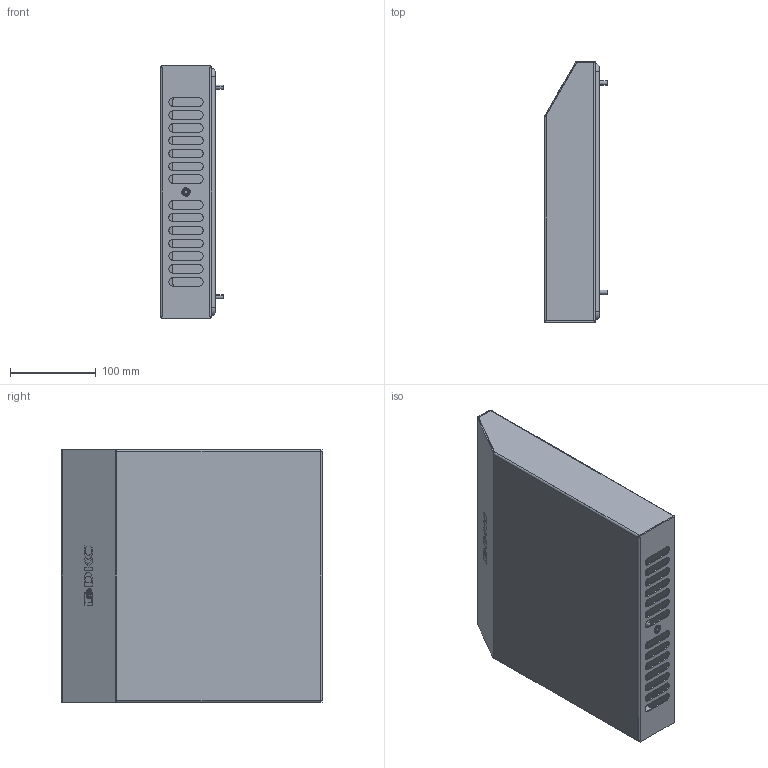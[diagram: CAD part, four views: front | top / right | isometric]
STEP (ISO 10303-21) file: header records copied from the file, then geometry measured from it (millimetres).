
FILE_DESCRIPTION (( 'STEP AP214' ), '1' );
FILE_NAME ('R5RK13B.STEP', '2021-03-12T13:11:38', ( '' ), ( '' ), 'SwSTEP 2.0', 'SolidWorks 2020', '' );
FILE_SCHEMA (( 'AUTOMOTIVE_DESIGN' ));
Length unit declared in the file: millimetre
Products named in the file (8): RB.1673.00.01.0_-02; M6 art.MGR-MKO-0625; PF 5x10 Cover R5RK_R5KF13; RB.1673.00.00.0 捘_-07; RB.1674.00.00.0_-02; M5x12-DIN 7500M ISR_stright; M6x50 DIN 914 HX cl.4,8 Zinc_straight; R5RK13B
Assembly tree (10 placements, depth 3):
  R5RK13B
    RB.1673.00.00.0 捘_-07
      RB.1673.00.01.0_-02
      M6 art.MGR-MKO-0625
      PF 5x10 Cover R5RK_R5KF13
    RB.1674.00.00.0_-02
    M5x12-DIN 7500M ISR_stright  x4
    M6x50 DIN 914 HX cl.4,8 Zinc_straight
Bounding box: 74 x 305.5 x 295 mm (x, y, z)
Volume: 323475.3 mm3; surface area: 424296.6 mm2
Topology: 9 solids, 9 shells, 476 faces, 1174 edges, 728 vertices
Faces by surface type: plane 241, cylinder 127, bspline 64, cone 32, torus 12
Entity records: 13946 total; most frequent: CARTESIAN_POINT 3508, ORIENTED_EDGE 2140, DIRECTION 1950, EDGE_CURVE 1070, VECTOR 716, LINE 716, VERTEX_POINT 671, AXIS2_PLACEMENT_3D 617
